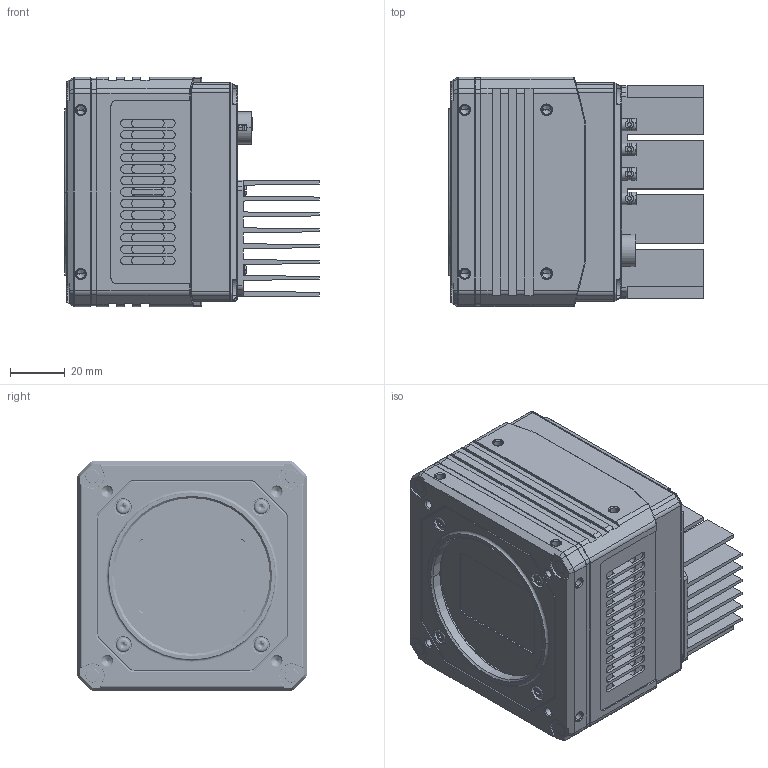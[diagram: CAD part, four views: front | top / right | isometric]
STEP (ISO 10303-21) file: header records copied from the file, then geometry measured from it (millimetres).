
FILE_DESCRIPTION((''),'2;1');
FILE_NAME('MV-CH240-10TM-NN_ASM_ASM','2021-05-31T13:58:47',('wangyijun6'),(''),'CREO PARAMETRIC BY PTC INC, 2017260','CREO PARAMETRIC BY PTC INC, 2017260','');
FILE_SCHEMA(('CONFIG_CONTROL_DESIGN'));
Products named in the file (1): MV-CH240-10TM-NN_ASM_ASM
Bounding box: 93.35 x 84 x 84 mm (x, y, z)
Volume: 420980.7 mm3; surface area: 117682.5 mm2
Topology: 1 solids, 107 shells, 3494 faces, 9063 edges, 5755 vertices
Faces by surface type: plane 1430, cylinder 1281, cone 515, torus 130, bspline 82, extrusion 48, sphere 8
Entity records: 125590 total; most frequent: CARTESIAN_POINT 40336, DIRECTION 17905, ORIENTED_EDGE 17636, EDGE_CURVE 8975, AXIS2_PLACEMENT_3D 6662, VERTEX_POINT 5755, VECTOR 4581, LINE 4533
